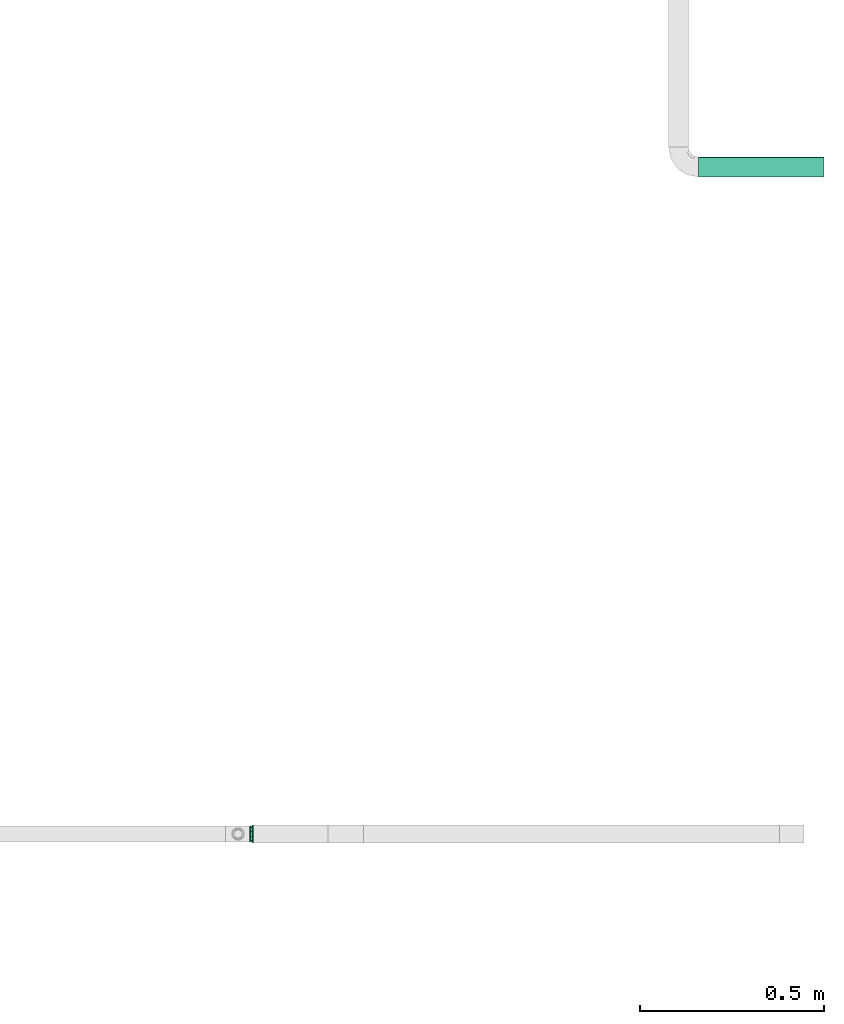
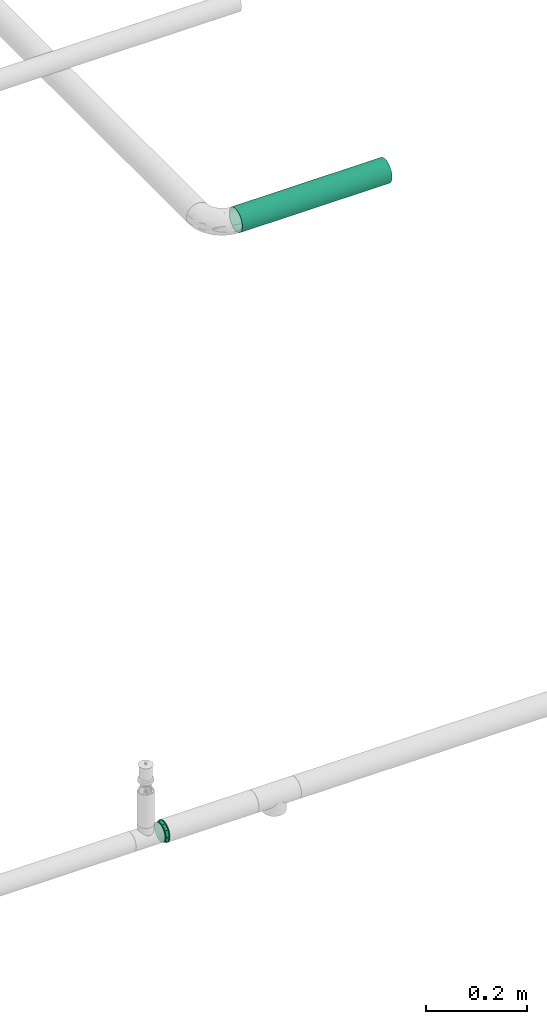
# One storey, part 94 of 94: 1 flow fitting, 1 flow segment.
"""IFC2X3 building model written with IfcOpenShell, lengths in millimetres."""

from ifc_helpers import new_model, entity, si_unit, converted_unit, derived_unit, direction, frame, origin_with_axes, place, context, subcontext, project, spatial, open_shell, faceted_brep, surface_model, source, transform, mapped, type_object, element, save


model = new_model("IFC2X3")

# Units and contexts
model_context = context("Model", 3, precision=0.01, world=frame((0.0, 4.29681676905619e-09, 0.0)), true_north=direction((4.01073788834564e-13, 1.0)))
plan_context = context("Plan", 3, precision=0.01, world=frame((0.0, 4.29681676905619e-09, 0.0)), true_north=direction((4.01073788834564e-13, 1.0)))
body_context = subcontext(model_context, "Body", "Model", "MODEL_VIEW")
ifc_project = project(units=[converted_unit("PLANEANGLEUNIT", "DEGREE", entity("IfcPositiveLengthMeasure", 0.0174532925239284), si_unit("PLANEANGLEUNIT", "RADIAN"), dimensions=[0, 0, 0, 0, 0, 0, 0]), si_unit("AREAUNIT", "SQUARE_METRE"), si_unit("LENGTHUNIT", "METRE", prefix="MILLI"), si_unit("MASSUNIT", "GRAM", prefix="KILO"), si_unit("POWERUNIT", "WATT"), si_unit("PRESSUREUNIT", "PASCAL"), si_unit("FORCEUNIT", "NEWTON", prefix="KILO"), si_unit("ELECTRICCURRENTUNIT", "AMPERE"), si_unit("THERMODYNAMICTEMPERATUREUNIT", "DEGREE_CELSIUS"), si_unit("TIMEUNIT", "SECOND"), si_unit("VOLUMEUNIT", "CUBIC_METRE"), derived_unit("LINEARVELOCITYUNIT", [(si_unit("LENGTHUNIT", "METRE"), 1), (si_unit("TIMEUNIT", "SECOND"), -1)]), derived_unit("VOLUMETRICFLOWRATEUNIT", [(si_unit("VOLUMEUNIT", "CUBIC_METRE"), 1), (si_unit("TIMEUNIT", "SECOND"), -1)]), derived_unit("THERMALTRANSMITTANCEUNIT", [(si_unit("POWERUNIT", "WATT"), 1), (si_unit("THERMODYNAMICTEMPERATUREUNIT", "KELVIN"), -1), (si_unit("AREAUNIT", "SQUARE_METRE"), -1)])], contexts=[model_context, plan_context])

# Site, building, storey
site_placement = place(None, frame((0.0, -4.29681676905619e-09, 0.0), z_axis=(0.0, 0.0, 1.0), x_axis=(1.0, 0.0, 0.0)))
site = spatial("IfcSite", under=ifc_project, at=site_placement, CompositionType="ELEMENT")
building_placement = place(site_placement, frame((0.0, 4.29681676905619e-09, 0.0), z_axis=(0.0, 0.0, 1.0), x_axis=(1.0, 0.0, 0.0)))
building = spatial("IfcBuilding", under=site, at=building_placement, Name="mc-building", CompositionType="ELEMENT")
storey_placement = place(building_placement, frame((0.0, 0.0, 200300.0), z_axis=(0.0, 0.0, 1.0), x_axis=(1.0, 0.0, 0.0)))
storey = spatial("IfcBuildingStorey", under=building, at=storey_placement, Name="Nivå C", CompositionType="ELEMENT", Elevation=200300.0)

# Flow fitting
pipe_fitting_type = type_object("IfcPipeFittingType", Name="magi_pipe_fe_reducer_centric_short_NOR", PredefinedType="TRANSITION")
shared_shape = source(origin_with_axes(), body_context, "Body", "SurfaceModel", [
    surface_model("IfcShellBasedSurfaceModel", [(-2.0, -10.6, 18.35974), (-2.0, -5.48696, 20.47763), (-2.0, 0.0, 21.2), (-2.0, -14.99066, 14.99066), (-2.0, -20.47763, 5.48696), (-2.0, -18.35974, 10.6), (-2.0, 14.99066, -14.99066), (-2.0, 21.2, 0.0), (-2.0, 10.6, 18.35974), (-2.0, 14.99066, 14.99066), (-2.0, 5.48696, 20.47763), (-2.0, 20.47763, 5.48696), (-2.0, 18.35974, 10.6), (-2.0, -10.6, -18.35974), (-2.0, -20.47763, -5.48696), (-2.0, -18.35974, -10.6), (-2.0, -14.99066, -14.99066), (-2.0, 0.0, -21.2), (-2.0, -5.48696, -20.47763), (-2.0, 20.47763, -5.48696), (-2.0, 18.35974, -10.6), (-2.0, 5.48696, -20.47763), (-2.0, 10.6, -18.35974), (-2.0, -21.2, 0.0), (0.0, -5.48696, -20.47763), (0.0, 0.0, -21.2), (0.0, -10.6, -18.35974), (0.0, -14.99066, -14.99066), (0.0, -20.47763, -5.48696), (0.0, 21.2, 0.0), (0.0, -18.35974, -10.6), (0.0, 14.99066, -14.99066), (0.0, 5.48696, -20.47763), (0.0, 10.6, -18.35974), (0.0, 20.47763, -5.48696), (0.0, 18.35974, -10.6), (0.0, -21.2, 0.0), (0.0, -14.99066, 14.99066), (0.0, -18.35974, 10.6), (0.0, -20.47763, 5.48696), (0.0, 0.0, 21.2), (0.0, -5.48696, 20.47763), (0.0, -10.6, 18.35974), (0.0, 14.99066, 14.99066), (0.0, 20.47763, 5.48696), (0.0, 18.35974, 10.6), (0.0, 10.6, 18.35974), (0.0, 5.48696, 20.47763), (6.0, 7.47821, 23.01557), (6.0, 19.57821, -14.2244), (6.0, 19.57821, 14.2244), (6.0, -24.2, 0.0), (6.0, -7.47821, 23.01557), (6.0, -19.57821, 14.2244), (6.0, -19.57821, -14.2244), (0.0, -6.55116, 20.1624), (0.0, -17.15116, -12.46105), (0.0, -17.15116, 12.46105), (0.0, 6.55116, 20.1624), (0.0, 17.15116, 12.46105), (0.0, 17.15116, -12.46105), (0.0, -6.55116, -20.1624), (8.0, -12.1, -20.95781), (8.0, -6.26342, -23.37541), (8.0, -23.37541, -6.26342), (8.0, -17.11198, -17.11198), (8.0, 23.37541, 6.26342), (8.0, -20.95781, -12.1), (8.0, 17.11198, -17.11198), (8.0, 0.0, -24.2), (8.0, 6.26342, -23.37541), (8.0, 12.1, -20.95781), (8.0, 20.95781, -12.1), (8.0, 23.37541, -6.26342), (8.0, 24.2, 0.0), (8.0, -20.95781, 12.1), (8.0, -24.2, 0.0), (8.0, -17.11198, 17.11198), (8.0, 0.0, 24.2), (8.0, -6.26342, 23.37541), (8.0, -12.1, 20.95781), (8.0, 17.11198, 17.11198), (8.0, 20.95781, 12.1), (8.0, 12.1, 20.95781), (8.0, 6.26342, 23.37541), (8.0, -23.37541, 6.26342), (6.0, -12.1, 20.95781), (6.0, -6.26342, 23.37541), (6.0, 0.0, 24.2), (6.0, -17.11198, 17.11198), (6.0, -20.95781, 12.1), (6.0, 24.2, 0.0), (6.0, -6.26342, -23.37541), (6.0, 12.1, 20.95781), (6.0, 17.11198, 17.11198), (6.0, 6.26342, 23.37541), (6.0, 23.37541, 6.26342), (6.0, 20.95781, 12.1), (6.0, -23.37541, 6.26342), (6.0, -23.37541, -6.26342), (6.0, -20.95781, -12.1), (6.0, -17.11198, -17.11198), (6.0, -12.1, -20.95781), (6.0, 17.11198, -17.11198), (6.0, 20.95781, -12.1), (6.0, 23.37541, -6.26342), (6.0, 12.1, -20.95781), (6.0, 6.26342, -23.37541), (6.0, 0.0, -24.2), (6.0, -7.47821, -23.01557), (6.0, 7.47821, -23.01557), (0.0, 6.55116, -20.1624), (0.0, 19.17558, -6.23052), (6.0, 21.8891, -7.1122), (0.0, 11.85116, -16.31172), (6.0, 13.52821, -18.61999), (6.0, 0.0, -23.01557), (0.0, 0.0, -20.1624), (6.0, -21.8891, -7.1122), (0.0, -19.72421, -4.54202), (0.0, -18.43768, -8.50153), (6.0, -13.52821, -18.61999), (0.0, -11.85116, -16.31172), (0.0, -19.17558, 6.23052), (6.0, -21.8891, 7.1122), (0.0, -11.85116, 16.31172), (6.0, -13.52821, 18.61999), (6.0, 0.0, 23.01557), (0.0, 0.0, 20.1624), (6.0, 21.8891, 7.1122), (0.0, 19.72421, 4.54202), (0.0, 18.43768, 8.50153), (6.0, 13.52821, 18.61999), (0.0, 11.85116, 16.31172)], [open_shell([[[0, 1, 2]], [[3, 0, 2]], [[4, 5, 3]], [[2, 4, 3]], [[6, 2, 7]], [[8, 9, 10]], [[9, 2, 10]], [[11, 7, 12]], [[2, 9, 12]], [[2, 12, 7]], [[6, 4, 2]], [[13, 14, 4]], [[15, 14, 16]], [[13, 4, 6]], [[16, 14, 13]], [[13, 17, 18]], [[19, 20, 7]], [[7, 20, 6]], [[21, 17, 22]], [[13, 6, 22]], [[13, 22, 17]], [[23, 4, 14]], [[24, 25, 26]], [[27, 26, 28]], [[29, 28, 26]], [[30, 27, 28]], [[26, 31, 29]], [[32, 33, 25]], [[33, 26, 25]], [[34, 29, 35]], [[31, 26, 33]], [[29, 31, 35]], [[28, 29, 36]], [[37, 38, 39]], [[40, 37, 39]], [[40, 41, 42]], [[37, 40, 42]], [[43, 40, 39]], [[44, 45, 29]], [[43, 29, 45]], [[46, 47, 43]], [[39, 29, 43]], [[43, 47, 40]], [[36, 29, 39]], [[7, 34, 19]], [[19, 35, 20]], [[22, 6, 33]], [[31, 6, 20]], [[21, 22, 32]], [[34, 35, 19]], [[7, 29, 34]], [[22, 33, 32]], [[33, 6, 31]], [[20, 35, 31]], [[21, 32, 25]], [[25, 17, 21]], [[17, 24, 18]], [[18, 26, 13]], [[15, 16, 30]], [[27, 16, 13]], [[14, 15, 28]], [[26, 27, 13]], [[18, 24, 26]], [[14, 28, 36]], [[28, 15, 30]], [[16, 27, 30]], [[14, 36, 23]], [[25, 24, 17]], [[23, 39, 4]], [[4, 38, 5]], [[0, 3, 42]], [[37, 3, 5]], [[1, 0, 41]], [[39, 38, 4]], [[23, 36, 39]], [[0, 42, 41]], [[42, 3, 37]], [[5, 38, 37]], [[1, 41, 40]], [[40, 2, 1]], [[2, 47, 10]], [[10, 46, 8]], [[12, 9, 45]], [[43, 9, 8]], [[11, 12, 44]], [[46, 43, 8]], [[10, 47, 46]], [[11, 44, 29]], [[44, 12, 45]], [[9, 43, 45]], [[11, 29, 7]], [[40, 47, 2]], [[48, 49, 50]], [[51, 52, 53]], [[51, 54, 49]], [[55, 56, 57]], [[29, 58, 59]], [[29, 60, 56]], [[60, 61, 56]], [[29, 55, 58]], [[62, 63, 64]], [[65, 62, 64]], [[66, 64, 63]], [[67, 65, 64]], [[66, 63, 68]], [[69, 70, 63]], [[70, 71, 63]], [[72, 73, 68]], [[68, 63, 71]], [[73, 74, 68]], [[64, 75, 76]], [[64, 77, 75]], [[66, 77, 64]], [[78, 79, 80]], [[77, 78, 80]], [[78, 77, 81]], [[82, 81, 66]], [[66, 68, 74]], [[83, 84, 81]], [[77, 66, 81]], [[78, 81, 84]], [[76, 75, 85]], [[86, 87, 88]], [[89, 86, 88]], [[90, 89, 51]], [[91, 89, 88]], [[89, 91, 92]], [[93, 94, 95]], [[96, 95, 94]], [[97, 96, 94]], [[91, 95, 96]], [[91, 88, 95]], [[98, 90, 51]], [[92, 99, 89]], [[100, 99, 101]], [[99, 92, 102]], [[101, 99, 102]], [[91, 103, 92]], [[104, 103, 105]], [[105, 103, 91]], [[106, 107, 92]], [[92, 103, 106]], [[108, 92, 107]], [[51, 89, 99]], [[91, 73, 105]], [[105, 72, 104]], [[106, 103, 71]], [[68, 103, 104]], [[107, 106, 70]], [[73, 72, 105]], [[91, 74, 73]], [[106, 71, 70]], [[71, 103, 68]], [[104, 72, 68]], [[107, 70, 69]], [[69, 108, 107]], [[108, 63, 92]], [[92, 62, 102]], [[100, 101, 67]], [[65, 101, 102]], [[99, 100, 64]], [[62, 65, 102]], [[92, 63, 62]], [[99, 64, 76]], [[64, 100, 67]], [[101, 65, 67]], [[99, 76, 51]], [[69, 63, 108]], [[51, 85, 98]], [[98, 75, 90]], [[86, 89, 80]], [[77, 89, 90]], [[87, 86, 79]], [[85, 75, 98]], [[51, 76, 85]], [[86, 80, 79]], [[80, 89, 77]], [[90, 75, 77]], [[87, 79, 78]], [[78, 88, 87]], [[88, 84, 95]], [[95, 83, 93]], [[97, 94, 82]], [[81, 94, 93]], [[96, 97, 66]], [[83, 81, 93]], [[95, 84, 83]], [[96, 66, 74]], [[66, 97, 82]], [[94, 81, 82]], [[96, 74, 91]], [[78, 84, 88]], [[52, 51, 48]], [[49, 91, 50]], [[109, 110, 49]], [[109, 49, 54]], [[48, 51, 49]], [[56, 36, 57]], [[111, 61, 60]], [[55, 29, 56]], [[112, 29, 113]], [[49, 60, 112]], [[111, 114, 110]], [[91, 113, 29]], [[113, 49, 112]], [[114, 60, 115]], [[111, 110, 116]], [[116, 109, 117]], [[61, 117, 109]], [[118, 119, 120]], [[49, 115, 60]], [[114, 115, 110]], [[109, 121, 61]], [[121, 54, 122]], [[118, 51, 119]], [[122, 61, 121]], [[51, 36, 119]], [[54, 56, 122]], [[117, 111, 116]], [[56, 54, 120]], [[118, 120, 54]], [[123, 36, 124]], [[53, 57, 123]], [[55, 125, 52]], [[51, 124, 36]], [[124, 53, 123]], [[125, 57, 126]], [[55, 52, 127]], [[127, 48, 128]], [[58, 128, 48]], [[129, 130, 131]], [[53, 126, 57]], [[125, 126, 52]], [[48, 132, 58]], [[132, 50, 133]], [[129, 91, 130]], [[133, 58, 132]], [[91, 29, 130]], [[50, 59, 133]], [[128, 55, 127]], [[59, 50, 131]], [[129, 131, 50]]])]),
])
flow_fitting_placement = place(storey_placement, frame((530536.06879, 416298.62756, 2850.0), z_axis=(0.0, 0.0, 1.0), x_axis=(1.0, 0.0, 0.0)))
element("IfcFlowFitting", 1, at=flow_fitting_placement, inside=storey, type_object=pipe_fitting_type, Name="magi_pipe_fe_reducer_centric_short_NOR", context=body_context, shape_type="MappedRepresentation", body=[
    mapped(shared_shape, transform((0.0, 0.0, 0.0), scale=1.0)),
])

# Flow segment
pipe_segment_type = type_object("IfcPipeSegmentType", Name="SSt", PredefinedType="RIGIDSEGMENT")
flow_segment_placement = place(storey_placement, frame((531753.60596, 418111.24477, 2800.0), z_axis=(0.0, 0.0, 1.0), x_axis=(1.0, 0.0, 0.0)))
element("IfcFlowSegment", 2, at=flow_segment_placement, inside=storey, type_object=pipe_segment_type, Name="SSt", context=body_context, shape_type="Brep", body=[
    faceted_brep([(341.394040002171, 25.0, 0.0), (341.394040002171, 24.6201938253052, -4.34120444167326), (0.0, 24.6201938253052, -4.34120444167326), (0.0, 25.0, 0.0), (341.394040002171, 23.4923155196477, -8.55050358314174), (0.0, 23.4923155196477, -8.55050358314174), (341.394040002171, 21.650635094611, -12.5), (0.0, 21.650635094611, -12.5), (341.394040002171, 19.1511110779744, -16.0696902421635), (0.0, 19.1511110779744, -16.0696902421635), (341.394040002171, 16.0696902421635, -19.1511110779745), (0.0, 16.0696902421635, -19.1511110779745), (341.394040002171, 12.5, -21.650635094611), (0.0, 12.5, -21.650635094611), (341.394040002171, 8.5505035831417, -23.4923155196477), (0.0, 8.5505035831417, -23.4923155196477), (341.394040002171, 4.34120444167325, -24.6201938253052), (0.0, 4.34120444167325, -24.6201938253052), (341.394040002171, -4.59242549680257e-15, -25.0), (0.0, -4.59242549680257e-15, -25.0), (341.394040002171, -4.34120444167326, -24.6201938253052), (0.0, -4.34120444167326, -24.6201938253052), (341.394040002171, -8.55050358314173, -23.4923155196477), (0.0, -8.55050358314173, -23.4923155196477), (341.394040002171, -12.5, -21.650635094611), (0.0, -12.5, -21.650635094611), (341.394040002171, -16.0696902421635, -19.1511110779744), (0.0, -16.0696902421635, -19.1511110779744), (341.394040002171, -19.1511110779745, -16.0696902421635), (0.0, -19.1511110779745, -16.0696902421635), (341.394040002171, -21.650635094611, -12.5), (0.0, -21.650635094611, -12.5), (341.394040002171, -23.4923155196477, -8.55050358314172), (0.0, -23.4923155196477, -8.55050358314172), (341.394040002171, -24.6201938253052, -4.34120444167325), (0.0, -24.6201938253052, -4.34120444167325), (341.394040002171, -25.0, 3.06161699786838e-15), (0.0, -25.0, 3.06161699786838e-15), (341.394040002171, -24.6201938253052, 4.34120444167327), (0.0, -24.6201938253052, 4.34120444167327), (341.394040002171, -23.4923155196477, 8.55050358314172), (0.0, -23.4923155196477, 8.55050358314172), (341.394040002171, -21.650635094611, 12.5), (0.0, -21.650635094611, 12.5), (341.394040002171, -19.1511110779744, 16.0696902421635), (0.0, -19.1511110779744, 16.0696902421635), (341.394040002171, -16.0696902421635, 19.1511110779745), (0.0, -16.0696902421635, 19.1511110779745), (341.394040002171, -12.5, 21.650635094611), (0.0, -12.5, 21.650635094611), (341.394040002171, -8.55050358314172, 23.4923155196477), (0.0, -8.55050358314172, 23.4923155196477), (341.394040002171, -4.34120444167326, 24.6201938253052), (0.0, -4.34120444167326, 24.6201938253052), (341.394040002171, 1.53080849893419e-15, 25.0), (0.0, 1.53080849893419e-15, 25.0), (341.394040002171, 4.34120444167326, 24.6201938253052), (0.0, 4.34120444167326, 24.6201938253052), (341.394040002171, 8.55050358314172, 23.4923155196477), (0.0, 8.55050358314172, 23.4923155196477), (341.394040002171, 12.5, 21.650635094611), (0.0, 12.5, 21.650635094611), (341.394040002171, 16.0696902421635, 19.1511110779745), (0.0, 16.0696902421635, 19.1511110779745), (341.394040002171, 19.1511110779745, 16.0696902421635), (0.0, 19.1511110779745, 16.0696902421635), (341.394040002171, 21.650635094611, 12.5), (0.0, 21.650635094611, 12.5), (341.394040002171, 23.4923155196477, 8.55050358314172), (0.0, 23.4923155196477, 8.55050358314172), (341.394040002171, 24.6201938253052, 4.34120444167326), (0.0, 24.6201938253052, 4.34120444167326), (341.394040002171, 26.5898093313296, -4.68850079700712), (341.394040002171, 27.0, 0.0), (0.0, 27.0, 0.0), (0.0, 26.5898093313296, -4.68850079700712), (341.394040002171, 26.5898093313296, 4.68850079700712), (0.0, 26.5898093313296, 4.68850079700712), (341.394040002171, 25.3717007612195, 9.23454386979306), (0.0, 25.3717007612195, 9.23454386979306), (341.394040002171, 23.3826859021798, 13.5), (0.0, 23.3826859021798, 13.5), (341.394040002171, 20.6831999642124, 17.3552654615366), (0.0, 20.6831999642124, 17.3552654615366), (341.394040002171, 17.3552654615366, 20.6831999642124), (0.0, 17.3552654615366, 20.6831999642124), (341.394040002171, 13.5, 23.3826859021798), (0.0, 13.5, 23.3826859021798), (341.394040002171, 9.23454386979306, 25.3717007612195), (0.0, 9.23454386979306, 25.3717007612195), (341.394040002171, 4.68850079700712, 26.5898093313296), (0.0, 4.68850079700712, 26.5898093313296), (341.394040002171, 1.65327317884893e-15, 27.0), (0.0, 1.65327317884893e-15, 27.0), (341.394040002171, -4.68850079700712, 26.5898093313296), (0.0, -4.68850079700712, 26.5898093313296), (341.394040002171, -9.23454386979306, 25.3717007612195), (0.0, -9.23454386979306, 25.3717007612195), (341.394040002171, -13.5, 23.3826859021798), (0.0, -13.5, 23.3826859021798), (341.394040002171, -17.3552654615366, 20.6831999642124), (0.0, -17.3552654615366, 20.6831999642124), (341.394040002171, -20.6831999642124, 17.3552654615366), (0.0, -20.6831999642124, 17.3552654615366), (341.394040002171, -23.3826859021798, 13.5), (0.0, -23.3826859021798, 13.5), (341.394040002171, -25.3717007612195, 9.23454386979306), (0.0, -25.3717007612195, 9.23454386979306), (341.394040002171, -26.5898093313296, 4.68850079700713), (0.0, -26.5898093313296, 4.68850079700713), (341.394040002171, -27.0, 3.30654635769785e-15), (0.0, -27.0, 3.30654635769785e-15), (341.394040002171, -26.5898093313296, -4.68850079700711), (0.0, -26.5898093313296, -4.68850079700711), (341.394040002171, -25.3717007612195, -9.23454386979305), (0.0, -25.3717007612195, -9.23454386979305), (341.394040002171, -23.3826859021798, -13.5), (0.0, -23.3826859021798, -13.5), (341.394040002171, -20.6831999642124, -17.3552654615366), (0.0, -20.6831999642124, -17.3552654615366), (341.394040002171, -17.3552654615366, -20.6831999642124), (0.0, -17.3552654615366, -20.6831999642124), (341.394040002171, -13.5, -23.3826859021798), (0.0, -13.5, -23.3826859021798), (341.394040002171, -9.23454386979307, -25.3717007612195), (0.0, -9.23454386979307, -25.3717007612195), (341.394040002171, -4.68850079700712, -26.5898093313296), (0.0, -4.68850079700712, -26.5898093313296), (341.394040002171, -4.95981953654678e-15, -27.0), (0.0, -4.95981953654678e-15, -27.0), (341.394040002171, 4.68850079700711, -26.5898093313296), (0.0, 4.68850079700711, -26.5898093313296), (341.394040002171, 9.23454386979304, -25.3717007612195), (0.0, 9.23454386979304, -25.3717007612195), (341.394040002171, 13.5, -23.3826859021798), (0.0, 13.5, -23.3826859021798), (341.394040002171, 17.3552654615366, -20.6831999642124), (0.0, 17.3552654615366, -20.6831999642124), (341.394040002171, 20.6831999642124, -17.3552654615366), (0.0, 20.6831999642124, -17.3552654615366), (341.394040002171, 23.3826859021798, -13.5), (0.0, 23.3826859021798, -13.5), (341.394040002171, 25.3717007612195, -9.23454386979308), (0.0, 25.3717007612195, -9.23454386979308)], [[[0, 1, 2, 3]], [[1, 4, 5, 2]], [[4, 6, 7, 5]], [[6, 8, 9, 7]], [[8, 10, 11, 9]], [[10, 12, 13, 11]], [[12, 14, 15, 13]], [[14, 16, 17, 15]], [[16, 18, 19, 17]], [[18, 20, 21, 19]], [[20, 22, 23, 21]], [[22, 24, 25, 23]], [[24, 26, 27, 25]], [[26, 28, 29, 27]], [[28, 30, 31, 29]], [[30, 32, 33, 31]], [[32, 34, 35, 33]], [[34, 36, 37, 35]], [[36, 38, 39, 37]], [[38, 40, 41, 39]], [[40, 42, 43, 41]], [[42, 44, 45, 43]], [[44, 46, 47, 45]], [[46, 48, 49, 47]], [[48, 50, 51, 49]], [[50, 52, 53, 51]], [[52, 54, 55, 53]], [[54, 56, 57, 55]], [[56, 58, 59, 57]], [[58, 60, 61, 59]], [[60, 62, 63, 61]], [[62, 64, 65, 63]], [[64, 66, 67, 65]], [[66, 68, 69, 67]], [[68, 70, 71, 69]], [[70, 0, 3, 71]], [[72, 73, 74, 75]], [[73, 76, 77, 74]], [[76, 78, 79, 77]], [[78, 80, 81, 79]], [[80, 82, 83, 81]], [[82, 84, 85, 83]], [[84, 86, 87, 85]], [[86, 88, 89, 87]], [[88, 90, 91, 89]], [[90, 92, 93, 91]], [[92, 94, 95, 93]], [[94, 96, 97, 95]], [[96, 98, 99, 97]], [[98, 100, 101, 99]], [[100, 102, 103, 101]], [[102, 104, 105, 103]], [[104, 106, 107, 105]], [[106, 108, 109, 107]], [[108, 110, 111, 109]], [[110, 112, 113, 111]], [[112, 114, 115, 113]], [[114, 116, 117, 115]], [[116, 118, 119, 117]], [[118, 120, 121, 119]], [[120, 122, 123, 121]], [[122, 124, 125, 123]], [[124, 126, 127, 125]], [[126, 128, 129, 127]], [[128, 130, 131, 129]], [[130, 132, 133, 131]], [[132, 134, 135, 133]], [[134, 136, 137, 135]], [[136, 138, 139, 137]], [[138, 140, 141, 139]], [[140, 142, 143, 141]], [[142, 72, 75, 143]], [[75, 74, 77, 79, 81, 83, 85, 87, 89, 91, 93, 95, 97, 99, 101, 103, 105, 107, 109, 111, 113, 115, 117, 119, 121, 123, 125, 127, 129, 131, 133, 135, 137, 139, 141, 143], [3, 2, 5, 7, 9, 11, 13, 15, 17, 19, 21, 23, 25, 27, 29, 31, 33, 35, 37, 39, 41, 43, 45, 47, 49, 51, 53, 55, 57, 59, 61, 63, 65, 67, 69, 71]], [[142, 140, 138, 136, 134, 132, 130, 128, 126, 124, 122, 120, 118, 116, 114, 112, 110, 108, 106, 104, 102, 100, 98, 96, 94, 92, 90, 88, 86, 84, 82, 80, 78, 76, 73, 72], [70, 68, 66, 64, 62, 60, 58, 56, 54, 52, 50, 48, 46, 44, 42, 40, 38, 36, 34, 32, 30, 28, 26, 24, 22, 20, 18, 16, 14, 12, 10, 8, 6, 4, 1, 0]]], orient=[[False], [False], [False], [False], [False], [False], [False], [False], [False], [False], [False], [False], [False], [False], [False], [False], [False], [False], [False], [False], [False], [False], [False], [False], [False], [False], [False], [False], [False], [False], [False], [False], [False], [False], [False], [False], [False], [False], [False], [False], [False], [False], [False], [False], [False], [False], [False], [False], [False], [False], [False], [False], [False], [False], [False], [False], [False], [False], [False], [False], [False], [False], [False], [False], [False], [False], [False], [False], [False], [False], [False], [False], [False, False], [False, False]]),
])

save(model, "model.ifc")
